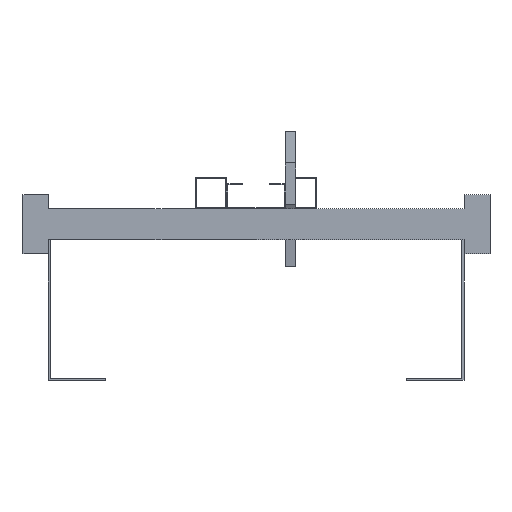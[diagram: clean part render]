
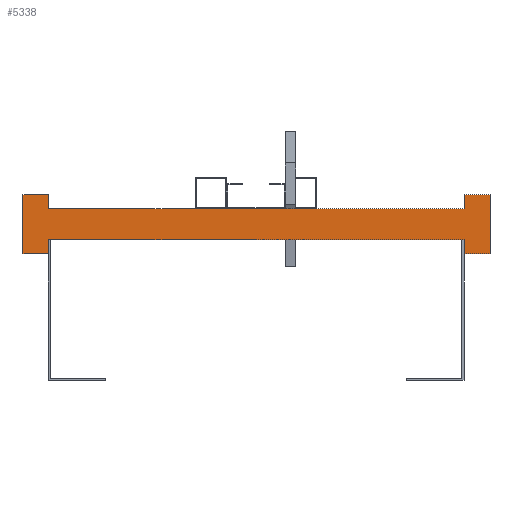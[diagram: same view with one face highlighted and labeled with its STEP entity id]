
A CAD part, front view. The second image highlights one B-rep face of the part: STEP entity #5338.
In plain terms, the highlighted planar face has unit normal (0, -1, 0).
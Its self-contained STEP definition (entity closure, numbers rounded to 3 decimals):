
#1925=DIRECTION('',(0.,0.,1.));
#1926=VECTOR('',#1925,13.5);
#1927=CARTESIAN_POINT('',(200.,0.,-28.5));
#1928=LINE('',#1927,#1926);
#1929=DIRECTION('',(0.,0.,-1.));
#1930=VECTOR('',#1929,13.5);
#1931=CARTESIAN_POINT('',(-200.,0.,-15.));
#1932=LINE('',#1931,#1930);
#1933=DIRECTION('',(-1.,0.,0.));
#1934=VECTOR('',#1933,25.);
#1935=CARTESIAN_POINT('',(-200.,0.,-28.5));
#1936=LINE('',#1935,#1934);
#1937=DIRECTION('',(0.,0.,1.));
#1938=VECTOR('',#1937,57.);
#1939=CARTESIAN_POINT('',(-225.,0.,-28.5));
#1940=LINE('',#1939,#1938);
#1941=DIRECTION('',(1.,0.,0.));
#1942=VECTOR('',#1941,25.);
#1943=CARTESIAN_POINT('',(-225.,0.,28.5));
#1944=LINE('',#1943,#1942);
#1945=DIRECTION('',(0.,0.,-1.));
#1946=VECTOR('',#1945,13.5);
#1947=CARTESIAN_POINT('',(-200.,0.,28.5));
#1948=LINE('',#1947,#1946);
#1949=DIRECTION('',(0.,0.,1.));
#1950=VECTOR('',#1949,13.5);
#1951=CARTESIAN_POINT('',(200.,0.,15.));
#1952=LINE('',#1951,#1950);
#1953=DIRECTION('',(1.,0.,0.));
#1954=VECTOR('',#1953,25.);
#1955=CARTESIAN_POINT('',(200.,0.,28.5));
#1956=LINE('',#1955,#1954);
#1957=DIRECTION('',(0.,0.,-1.));
#1958=VECTOR('',#1957,57.);
#1959=CARTESIAN_POINT('',(225.,0.,28.5));
#1960=LINE('',#1959,#1958);
#1961=DIRECTION('',(-1.,0.,0.));
#1962=VECTOR('',#1961,25.);
#1963=CARTESIAN_POINT('',(225.,0.,-28.5));
#1964=LINE('',#1963,#1962);
#1965=DIRECTION('',(1.,0.,0.));
#1966=VECTOR('',#1965,400.);
#1967=CARTESIAN_POINT('',(-200.,0.,-15.));
#1968=LINE('',#1967,#1966);
#1977=DIRECTION('',(1.,0.,0.));
#1978=VECTOR('',#1977,400.);
#1979=CARTESIAN_POINT('',(-200.,0.,15.));
#1980=LINE('',#1979,#1978);
#2041=CARTESIAN_POINT('',(-225.,0.,28.5));
#2042=CARTESIAN_POINT('',(-200.,0.,28.5));
#2043=VERTEX_POINT('',#2041);
#2044=VERTEX_POINT('',#2042);
#2045=CARTESIAN_POINT('',(-200.,0.,-28.5));
#2046=CARTESIAN_POINT('',(-225.,0.,-28.5));
#2047=VERTEX_POINT('',#2045);
#2048=VERTEX_POINT('',#2046);
#2049=CARTESIAN_POINT('',(225.,0.,28.5));
#2050=CARTESIAN_POINT('',(225.,0.,-28.5));
#2051=VERTEX_POINT('',#2049);
#2052=VERTEX_POINT('',#2050);
#2053=CARTESIAN_POINT('',(200.,0.,-28.5));
#2054=VERTEX_POINT('',#2053);
#2055=CARTESIAN_POINT('',(200.,0.,28.5));
#2056=VERTEX_POINT('',#2055);
#2073=CARTESIAN_POINT('',(-200.,0.,-15.));
#2075=VERTEX_POINT('',#2073);
#2077=CARTESIAN_POINT('',(-200.,0.,15.));
#2079=VERTEX_POINT('',#2077);
#2081=CARTESIAN_POINT('',(200.,0.,-15.));
#2083=VERTEX_POINT('',#2081);
#2085=CARTESIAN_POINT('',(200.,0.,15.));
#2087=VERTEX_POINT('',#2085);
#5313=CARTESIAN_POINT('',(0.,0.,0.));
#5314=DIRECTION('',(0.,1.,0.));
#5315=DIRECTION('',(1.,0.,0.));
#5316=AXIS2_PLACEMENT_3D('',#5313,#5314,#5315);
#5317=PLANE('',#5316);
#5318=ORIENTED_EDGE('',*,*,#3034,.T.);
#5320=ORIENTED_EDGE('',*,*,#5319,.F.);
#5321=ORIENTED_EDGE('',*,*,#2738,.T.);
#5322=ORIENTED_EDGE('',*,*,#4154,.T.);
#5324=ORIENTED_EDGE('',*,*,#5323,.T.);
#5326=ORIENTED_EDGE('',*,*,#5325,.T.);
#5327=ORIENTED_EDGE('',*,*,#2746,.T.);
#5329=ORIENTED_EDGE('',*,*,#5328,.T.);
#5330=ORIENTED_EDGE('',*,*,#3026,.T.);
#5332=ORIENTED_EDGE('',*,*,#5331,.T.);
#5334=ORIENTED_EDGE('',*,*,#5333,.T.);
#5335=ORIENTED_EDGE('',*,*,#4445,.T.);
#5336=EDGE_LOOP('',(#5318,#5320,#5321,#5322,#5324,#5326,#5327,#5329,#5330,#5332,
#5334,#5335));
#5337=FACE_OUTER_BOUND('',#5336,.F.);
#2738=EDGE_CURVE('',#2075,#2047,#1932,.T.);
#2746=EDGE_CURVE('',#2044,#2079,#1948,.T.);
#3026=EDGE_CURVE('',#2087,#2056,#1952,.T.);
#3034=EDGE_CURVE('',#2054,#2083,#1928,.T.);
#4154=EDGE_CURVE('',#2047,#2048,#1936,.T.);
#4445=EDGE_CURVE('',#2052,#2054,#1964,.T.);
#5319=EDGE_CURVE('',#2075,#2083,#1968,.T.);
#5323=EDGE_CURVE('',#2048,#2043,#1940,.T.);
#5325=EDGE_CURVE('',#2043,#2044,#1944,.T.);
#5328=EDGE_CURVE('',#2079,#2087,#1980,.T.);
#5331=EDGE_CURVE('',#2056,#2051,#1956,.T.);
#5333=EDGE_CURVE('',#2051,#2052,#1960,.T.);
#5338=ADVANCED_FACE('',(#5337),#5317,.F.);
